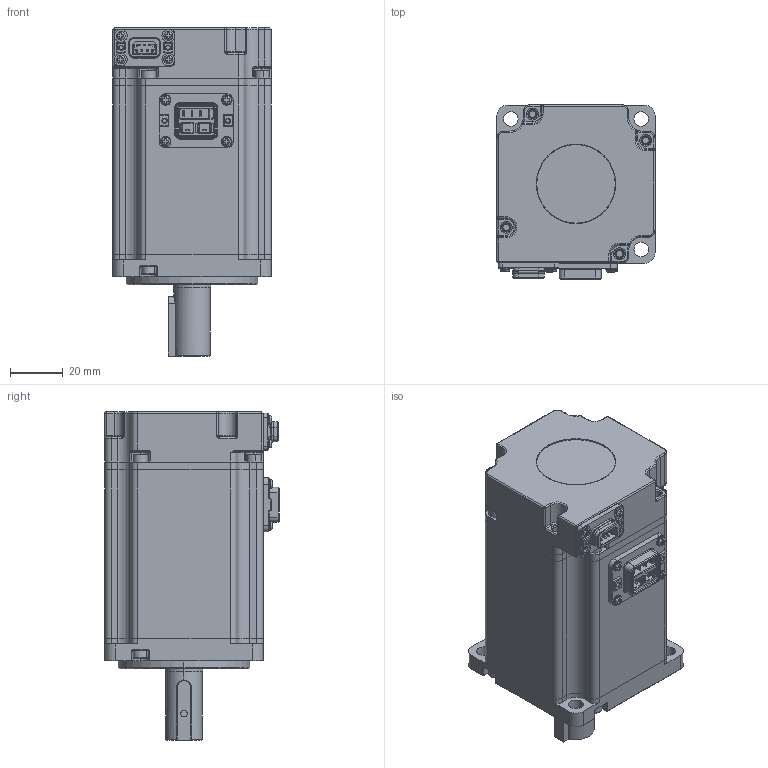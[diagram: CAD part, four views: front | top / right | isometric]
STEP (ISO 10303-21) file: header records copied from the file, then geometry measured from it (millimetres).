
FILE_DESCRIPTION (( 'STEP AP214' ), '1' );
FILE_NAME ('V7E-L06A-R4030-D1.STEP', '2021-08-05T08:03:46', ( '' ), ( '' ), 'SwSTEP 2.0', 'SolidWorks 2014', '' );
FILE_SCHEMA (( 'AUTOMOTIVE_DESIGN' ));
Length unit declared in the file: millimetre
Products named in the file (19): V7E-L06A-R4030-D1; 400W-隅赽郪璃-201126; 60_400W儂褲-201126; 蚐猾 D00B999YF2-TC 15-22-5; o型圈--内径53.31直径1.7; す菜 M3; 10-26-8粣創; 囀鞠褒 ISO 4762 M3 x 12 --- 12N; 60陔晤鎢ん綴欶-201126; 60-80蚳蚚雄薯脣釱-sc-mc6p-ac-goubanchazuo; 60#粣-饜38_23弇; ヶ傷裔_60價釱-201126; 囀鞠褒 M3X8; 60#晤鎢ん欶躇猾菜; 普通型 平键   C 5x5x22.5 带M3起键螺钉孔; 綴傷裔_60價釱-201126; 15-32-9粣創; SC40陔晤鎢ん瑤脣釱sc-mc7p-a6-zhichuxianchazuo; 粟菜 M3
Assembly tree (26 placements, depth 3):
  V7E-L06A-R4030-D1
    400W-隅赽郪璃-201126
      ヶ傷裔_60價釱-201126
      60_400W儂褲-201126
    綴傷裔_60價釱-201126
    60陔晤鎢ん綴欶-201126
    SC40陔晤鎢ん瑤脣釱sc-mc7p-a6-zhichuxianchazuo
    10-26-8粣創
    15-32-9粣創
    60#晤鎢ん欶躇猾菜
    o型圈--内径53.31直径1.7  x2
    蚐猾 D00B999YF2-TC 15-22-5
    普通型 平键   C 5x5x22.5 带M3起键螺钉孔
    囀鞠褒 ISO 4762 M3 x 12 --- 12N  x8
    粟菜 M3
    す菜 M3
    囀鞠褒 M3X8
    60-80蚳蚚雄薯脣釱-sc-mc6p-ac-goubanchazuo
    60#粣-饜38_23弇
Bounding box: 60 x 66.1 x 124.5 mm (x, y, z)
Volume: 134349.5 mm3; surface area: 90472.8 mm2
Topology: 34 solids, 34 shells, 4006 faces, 10247 edges, 6320 vertices
Faces by surface type: plane 1811, cylinder 1309, bspline 484, cone 213, torus 151, sphere 38
Entity records: 144369 total; most frequent: CARTESIAN_POINT 52241, ORIENTED_EDGE 19476, DIRECTION 17989, EDGE_CURVE 9738, AXIS2_PLACEMENT_3D 6216, VERTEX_POINT 6077, LINE 5557, VECTOR 5557
